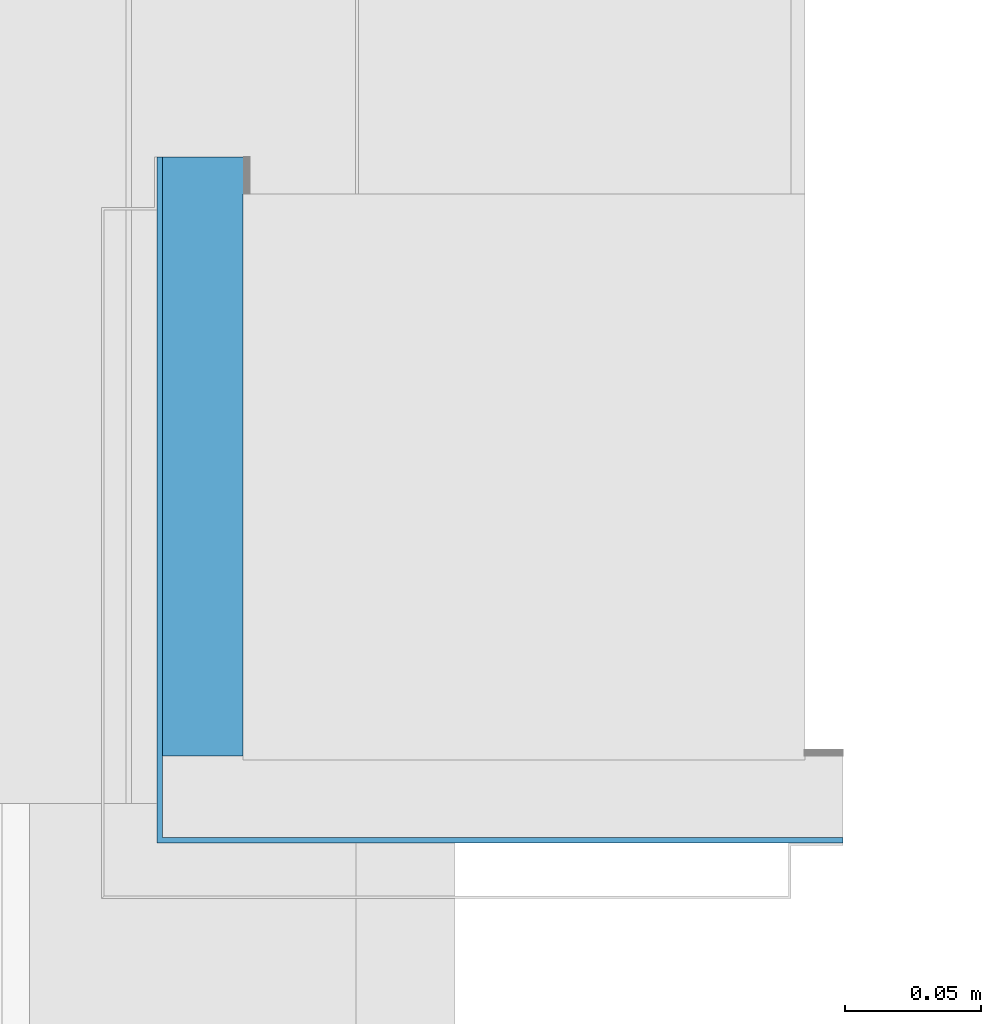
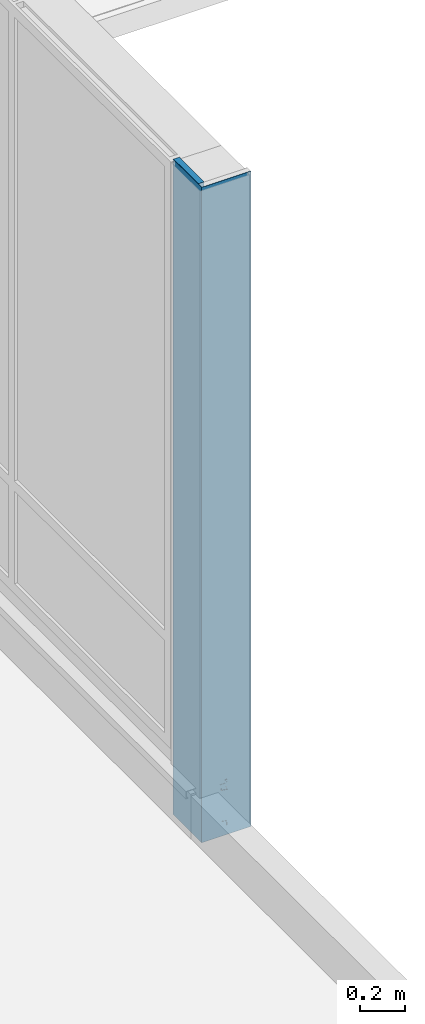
# One storey, part 19 of 54: 2 building element parts, 1 element without a shape of its own.
"""IFC2X3 building model written with IfcOpenShell, lengths in millimetres."""

from ifc_helpers import new_model, entity, si_unit, converted_unit, derived_unit, money_unit, direction, frame, origin_with_axes, place, context, subcontext, project, spatial, faceted_brep, material, type_object, element, aggregate, save


model = new_model("IFC2X3")

# Units and contexts
model_context = context("Model", 3, precision=0.01, world=origin_with_axes(), true_north=direction((0.0, 1.0)))
body_context = subcontext(model_context, "Body", "Model", "MODEL_VIEW")
ifc_project = project(units=[si_unit("LENGTHUNIT", "METRE", prefix="MILLI"), si_unit("AREAUNIT", "SQUARE_METRE"), si_unit("VOLUMEUNIT", "CUBIC_METRE"), converted_unit("PLANEANGLEUNIT", "DEGREE", entity("IfcPlaneAngleMeasure", 0.0174532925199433), si_unit("PLANEANGLEUNIT", "RADIAN"), dimensions=[0, 0, 0, 0, 0, 0, 0]), money_unit("EUR"), converted_unit("TIMEUNIT", "Year", entity("IfcTimeMeasure", 31557600.0), si_unit("TIMEUNIT", "SECOND"), dimensions=[0, 0, 1, 0, 0, 0, 0]), si_unit("MASSUNIT", "GRAM", prefix="KILO"), si_unit("THERMODYNAMICTEMPERATUREUNIT", "DEGREE_CELSIUS"), si_unit("LUMINOUSINTENSITYUNIT", "LUMEN"), si_unit("ENERGYUNIT", "JOULE", prefix="MEGA"), derived_unit("THERMALCONDUCTANCEUNIT", [(si_unit("POWERUNIT", "WATT"), 1), (si_unit("LENGTHUNIT", "METRE"), -1), (si_unit("THERMODYNAMICTEMPERATUREUNIT", "KELVIN"), -1)]), derived_unit("SPECIFICHEATCAPACITYUNIT", [(si_unit("ENERGYUNIT", "JOULE"), 1), (si_unit("MASSUNIT", "GRAM", prefix="KILO"), -1), (si_unit("THERMODYNAMICTEMPERATUREUNIT", "KELVIN"), -1)]), derived_unit("MASSDENSITYUNIT", [(si_unit("MASSUNIT", "GRAM", prefix="KILO"), 1), (si_unit("VOLUMEUNIT", "CUBIC_METRE"), -1)])], contexts=[model_context])

# Site, building, storey
site_placement = place(None, origin_with_axes())
site = spatial("IfcSite", under=ifc_project, at=site_placement, Name="<site naam>", CompositionType="ELEMENT")
building_placement = place(site_placement, origin_with_axes())
building = spatial("IfcBuilding", under=site, at=building_placement, Name="<Naam gebouw>", CompositionType="ELEMENT")
storey_placement = place(building_placement, frame((0.0, 0.0, 8500.0), z_axis=(0.0, 0.0, 1.0), x_axis=(1.0, 0.0, 0.0)))
storey = spatial("IfcBuildingStorey", under=building, at=storey_placement, Name="02 2e verdieping", CompositionType="ELEMENT", Elevation=8500.0)

# Column, building element parts
column_type = type_object("IfcColumnType", Name="aluminium zetwerk hoek vliesgevel 272 x 272", PredefinedType="COLUMN")
column_placement = place(storey_placement, frame((4071.524650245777, 1895.019464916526, 0.0), z_axis=(0.0, 0.0, 1.0), x_axis=(1.0, 0.0, 0.0)))
column = element("IfcColumn", 1, at=column_placement, inside=storey, type_object=column_type, Name="41_Kolom_aluminium", ObjectType="COLUMN")
ifc_material_1 = material(Name="ALG - ISOLATIE met lijn")
building_element_part_1_placement = place(column_placement, origin_with_axes())
building_element_part_1 = element("IfcBuildingElementPart", 2, at=building_element_part_1_placement, material=ifc_material_1, Name="ALG - ISOLATIE met lijn", context=body_context, shape_type="Brep", body=[
    faceted_brep([(52.50000268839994, 259.0029515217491, 269.9986434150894), (52.50000268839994, 272.4680601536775, 269.9986434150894), (52.50000268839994, 272.4680601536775, 3544.999975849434), (52.50000268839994, 259.0029515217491, 3544.999975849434), (22.49999655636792, 272.4680601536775, 269.9986434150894), (51.99999989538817, 259.0029515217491, 269.9986434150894), (51.99999989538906, 52.49999954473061, 269.9986434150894), (22.49999655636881, 52.49999954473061, 269.9986434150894), (22.49999655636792, 272.4680601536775, 3544.999975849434), (22.49999655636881, 52.49999954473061, 3544.999975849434), (51.99999989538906, 52.49999954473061, 3544.999975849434), (51.99999989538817, 259.0029515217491, 3544.999975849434)], [[[0, 1, 2, 3]], [[4, 1, 0, 5, 6, 7]], [[1, 4, 8, 2]], [[2, 8, 9, 10, 11, 3]], [[5, 0, 3, 11]], [[6, 5, 11, 10]], [[7, 6, 10, 9]], [[4, 7, 9, 8]]]),
])
ifc_material_2 = material(Name="Rubber")
building_element_part_2_placement = place(column_placement, origin_with_axes())
building_element_part_2 = element("IfcBuildingElementPart", 3, at=building_element_part_2_placement, material=ifc_material_2, Name="Rubber", context=body_context, shape_type="Brep", body=[
    faceted_brep([(20.49999289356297, 20.50000101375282, 3544.999975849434), (20.49999289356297, 20.50000101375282, 0.0), (252.4756312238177, 20.50000101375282, 0.0), (252.4756312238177, 20.50000101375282, 3544.999975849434), (119.7139282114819, 20.50000101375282, 95.56563988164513), (119.7139282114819, 20.50000101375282, 81.1728367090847), (151.5139216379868, 20.50000101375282, 75.56563988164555), (151.5139216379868, 20.50000101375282, 55.56562519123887), (150.3139282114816, 20.50000101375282, 55.56562519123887), (150.3139282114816, 20.50000101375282, 74.5587191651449), (118.5139282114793, 20.50000101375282, 80.16591715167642), (118.5139282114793, 20.50000101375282, 95.56563988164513), (121.7139282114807, 20.50000101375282, 259.0654609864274), (121.7139282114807, 20.50000101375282, 249.1686867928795), (153.5139282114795, 20.50000101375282, 245.065460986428), (153.5139282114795, 20.50000101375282, 50.56563146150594), (148.3139282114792, 20.50000101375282, 50.56563146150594), (148.3139282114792, 20.50000101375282, 67.56563146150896), (149.5139282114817, 20.50000101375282, 67.56563146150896), (149.5139282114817, 20.50000101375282, 51.76563146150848), (152.3219055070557, 20.50000101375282, 51.76563146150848), (152.3219055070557, 20.50000101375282, 243.767837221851), (120.5139282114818, 20.50000101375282, 247.8720932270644), (120.5139282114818, 20.50000101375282, 259.0654609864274), (152.5206209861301, 20.50000101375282, 300.0656399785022), (153.2277277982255, 20.50000101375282, 299.7727467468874), (153.5206210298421, 20.50000101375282, 299.0656399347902), (153.5206210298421, 20.50000101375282, 256.0656399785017), (153.2277278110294, 20.50000101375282, 255.3585331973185), (152.5206210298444, 20.50000101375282, 255.0656399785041), (152.0206424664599, 20.50000101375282, 255.1996022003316), (145.8220374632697, 20.50000101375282, 258.7781639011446), (145.5423376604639, 20.50000101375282, 259.1426290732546), (145.6022419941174, 20.50000101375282, 259.5981269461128), (145.9666656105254, 20.50000101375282, 259.8778808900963), (146.4221723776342, 20.50000101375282, 259.818044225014), (149.6221835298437, 20.50000101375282, 257.9718899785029), (149.6221835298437, 20.50000101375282, 258.5656399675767), (149.7686301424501, 20.50000101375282, 258.9191933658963), (150.1221835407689, 20.50000101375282, 259.0656399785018), (150.321402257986, 20.50000101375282, 259.0656399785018), (150.6749556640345, 20.50000101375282, 258.9191933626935), (150.8214022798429, 20.50000101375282, 258.5656399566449), (150.8214022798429, 20.50000101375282, 257.2785306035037), (151.5708990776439, 20.50000101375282, 256.8452277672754), (151.9081256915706, 20.50000101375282, 256.7855982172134), (152.2047513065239, 20.50000101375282, 256.9567435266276), (152.3219055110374, 20.50000101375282, 257.2785390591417), (152.3214022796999, 20.50000101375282, 287.0656484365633), (152.1749526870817, 20.50000101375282, 287.4191963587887), (151.8214022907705, 20.50000101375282, 287.5656399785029), (151.3214022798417, 20.50000101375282, 287.5656399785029), (150.9678488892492, 20.50000101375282, 287.4191933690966), (150.8214022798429, 20.50000101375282, 287.0656399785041), (150.8214022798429, 20.50000101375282, 285.5656399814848), (150.6749556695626, 20.50000101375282, 285.2120865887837), (150.3214022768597, 20.50000101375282, 285.0656399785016), (148.5479647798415, 20.50000101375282, 285.0656399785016), (143.342479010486, 20.50000101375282, 281.7461344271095), (143.2081210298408, 20.50000101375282, 281.4250149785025), (142.9503085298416, 20.50000101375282, 281.3156399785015), (142.6299960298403, 20.50000101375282, 281.4484524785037), (141.9796200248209, 20.50000101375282, 281.2060708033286), (141.8253085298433, 20.50000101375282, 280.8976712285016), (141.5557772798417, 20.50000101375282, 280.8078274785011), (141.2471835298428, 20.50000101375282, 280.9640774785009), (135.3216939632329, 20.50000101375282, 280.0660257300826), (108.8712120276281, 20.50000101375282, 280.0656399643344), (108.624687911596, 20.50000101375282, 280.1677501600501), (108.5225741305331, 20.50000101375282, 280.4142727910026), (108.6250313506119, 20.50000101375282, 280.6611393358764), (108.872183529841, 20.50000101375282, 280.7629056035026), (113.5206210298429, 20.50000101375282, 281.2648587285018), (113.8214022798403, 20.50000101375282, 281.5656399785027), (116.2198397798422, 20.50000101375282, 281.5656399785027), (116.5206210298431, 20.50000101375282, 281.2648587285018), (119.5206210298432, 20.50000101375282, 281.2648587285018), (119.8214022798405, 20.50000101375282, 281.5656399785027), (122.2198397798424, 20.50000101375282, 281.5656399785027), (122.5206210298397, 20.50000101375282, 281.2648587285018), (125.5206210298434, 20.50000101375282, 281.2648587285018), (125.8214022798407, 20.50000101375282, 281.5656399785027), (128.2198397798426, 20.50000101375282, 281.5656399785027), (128.5206210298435, 20.50000101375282, 281.2648587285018), (131.5206210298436, 20.50000101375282, 281.2648587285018), (131.821402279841, 20.50000101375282, 281.5656399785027), (134.2198397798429, 20.50000101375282, 281.5656399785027), (134.5206210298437, 20.50000101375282, 281.2648587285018), (135.3214048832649, 20.50000101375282, 281.2648587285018), (143.5039517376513, 20.50000101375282, 283.1388770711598), (150.0552626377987, 20.50000101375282, 288.3873381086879), (150.8356179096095, 20.50000101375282, 288.7641736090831), (151.3228126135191, 20.50000101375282, 288.7648607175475), (152.0290073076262, 20.50000101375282, 289.058251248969), (152.3214022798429, 20.50000101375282, 289.7648587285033), (152.3214022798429, 20.50000101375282, 298.3664212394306), (152.1749556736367, 20.50000101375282, 298.7199746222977), (151.8214022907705, 20.50000101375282, 298.866421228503), (142.7198397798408, 20.50000101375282, 298.866421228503), (142.3662863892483, 20.50000101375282, 298.7199746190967), (142.219839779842, 20.50000101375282, 298.3664212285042), (142.219839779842, 20.50000101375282, 296.665249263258), (142.0449623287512, 20.50000101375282, 296.2428147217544), (141.6226702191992, 20.50000101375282, 296.0675936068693), (141.2000935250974, 20.50000101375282, 296.2421272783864), (141.0245288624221, 20.50000101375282, 296.6642766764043), (141.020623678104, 20.50000101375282, 299.064012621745), (141.3129398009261, 20.50000101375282, 299.7721708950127), (142.0206210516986, 20.50000101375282, 300.0656399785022), (20.49999289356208, 253.0030740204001, 3544.999975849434), (20.49999289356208, 253.0030740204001, 0.0), (20.49999289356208, 272.4680595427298, 0.0), (22.49999536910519, 272.4680595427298, 0.0), (22.49999536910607, 22.49999942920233, 0.0), (272.468059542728, 22.49999942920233, 0.0), (272.468059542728, 20.50000101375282, 0.0), (272.468059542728, 20.50000101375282, 3544.999975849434), (272.468059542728, 22.49999942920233, 3544.999975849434), (22.49999536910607, 22.49999942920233, 3544.999975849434), (22.49999536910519, 272.4680595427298, 3544.999975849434), (20.49999289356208, 272.4680595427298, 3544.999975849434), (119.7139282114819, 22.49999942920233, 95.56563988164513), (119.7139282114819, 22.49999942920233, 81.1728367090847), (151.5139216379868, 22.49999942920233, 75.56563988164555), (151.5139216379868, 22.49999942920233, 55.56562519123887), (150.3139282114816, 22.49999942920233, 55.56562519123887), (150.3139282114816, 22.49999942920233, 74.5587191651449), (118.5139282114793, 22.49999942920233, 80.16591715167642), (118.5139282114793, 22.49999942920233, 95.56563988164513), (121.7139282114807, 22.49999942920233, 259.0654609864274), (121.7139282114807, 22.49999942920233, 249.1686867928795), (153.5139282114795, 22.49999942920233, 245.065460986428), (153.5139282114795, 22.49999942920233, 50.56563146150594), (148.3139282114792, 22.49999942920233, 50.56563146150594), (148.3139282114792, 22.49999942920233, 67.56563146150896), (149.5139282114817, 22.49999942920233, 67.56563146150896), (149.5139282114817, 22.49999942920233, 51.76563146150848), (152.3219055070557, 22.49999942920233, 51.76563146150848), (152.3219055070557, 22.49999942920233, 243.767837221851), (120.5139282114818, 22.49999942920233, 247.8720932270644), (120.5139282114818, 22.49999942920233, 259.0654609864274), (152.5206209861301, 22.49999942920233, 300.0656399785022), (153.2277277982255, 22.49999942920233, 299.7727467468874), (153.5206210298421, 22.49999942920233, 299.0656399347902), (153.5206210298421, 22.49999942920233, 256.0656399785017), (153.2277278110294, 22.49999942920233, 255.3585331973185), (152.5206210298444, 22.49999942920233, 255.0656399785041), (152.0206424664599, 22.49999942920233, 255.1996022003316), (145.8220374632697, 22.49999942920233, 258.7781639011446), (145.5423376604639, 22.49999942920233, 259.1426290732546), (145.6022419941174, 22.49999942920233, 259.5981269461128), (145.9666656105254, 22.49999942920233, 259.8778808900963), (146.4221723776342, 22.49999942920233, 259.818044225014), (149.6221835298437, 22.49999942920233, 257.9718899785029), (149.6221835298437, 22.49999942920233, 258.5656399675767), (149.7686301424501, 22.49999942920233, 258.9191933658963), (150.1221835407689, 22.49999942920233, 259.0656399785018), (150.321402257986, 22.49999942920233, 259.0656399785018), (150.6749556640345, 22.49999942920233, 258.9191933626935), (150.8214022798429, 22.49999942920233, 258.5656399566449), (150.8214022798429, 22.49999942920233, 257.2785306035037), (151.5708990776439, 22.49999942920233, 256.8452277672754), (151.9081256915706, 22.49999942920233, 256.7855982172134), (152.2047513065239, 22.49999942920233, 256.9567435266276), (152.3219055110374, 22.49999942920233, 257.2785390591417), (152.3214022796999, 22.49999942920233, 287.0656484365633), (152.1749526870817, 22.49999942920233, 287.4191963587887), (151.8214022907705, 22.49999942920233, 287.5656399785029), (151.3214022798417, 22.49999942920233, 287.5656399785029), (150.9678488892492, 22.49999942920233, 287.4191933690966), (150.8214022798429, 22.49999942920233, 287.0656399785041), (150.8214022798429, 22.49999942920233, 285.5656399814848), (150.6749556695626, 22.49999942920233, 285.2120865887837), (150.3214022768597, 22.49999942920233, 285.0656399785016), (148.5479647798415, 22.49999942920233, 285.0656399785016), (143.342479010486, 22.49999942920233, 281.7461344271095), (143.2081210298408, 22.49999942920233, 281.4250149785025), (142.9503085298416, 22.49999942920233, 281.3156399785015), (142.6299960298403, 22.49999942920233, 281.4484524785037), (141.9796200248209, 22.49999942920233, 281.2060708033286), (141.8253085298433, 22.49999942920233, 280.8976712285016), (141.5557772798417, 22.49999942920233, 280.8078274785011), (141.2471835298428, 22.49999942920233, 280.9640774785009), (135.3216939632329, 22.49999942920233, 280.0660257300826), (108.8712120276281, 22.49999942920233, 280.0656399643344), (108.624687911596, 22.49999942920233, 280.1677501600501), (108.5225741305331, 22.49999942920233, 280.4142727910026), (108.6250313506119, 22.49999942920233, 280.6611393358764), (108.872183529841, 22.49999942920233, 280.7629056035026), (113.5206210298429, 22.49999942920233, 281.2648587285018), (113.8214022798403, 22.49999942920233, 281.5656399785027), (116.2198397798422, 22.49999942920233, 281.5656399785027), (116.5206210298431, 22.49999942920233, 281.2648587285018), (119.5206210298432, 22.49999942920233, 281.2648587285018), (119.8214022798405, 22.49999942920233, 281.5656399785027), (122.2198397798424, 22.49999942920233, 281.5656399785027), (122.5206210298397, 22.49999942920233, 281.2648587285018), (125.5206210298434, 22.49999942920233, 281.2648587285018), (125.8214022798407, 22.49999942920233, 281.5656399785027), (128.2198397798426, 22.49999942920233, 281.5656399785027), (128.5206210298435, 22.49999942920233, 281.2648587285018), (131.5206210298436, 22.49999942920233, 281.2648587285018), (131.821402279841, 22.49999942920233, 281.5656399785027), (134.2198397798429, 22.49999942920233, 281.5656399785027), (134.5206210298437, 22.49999942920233, 281.2648587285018), (135.3214048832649, 22.49999942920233, 281.2648587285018), (143.5039517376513, 22.49999942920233, 283.1388770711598), (150.0552626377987, 22.49999942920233, 288.3873381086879), (150.8356179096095, 22.49999942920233, 288.7641736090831), (151.3228126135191, 22.49999942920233, 288.7648607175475), (152.0290073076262, 22.49999942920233, 289.058251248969), (152.3214022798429, 22.49999942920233, 289.7648587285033), (152.3214022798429, 22.49999942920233, 298.3664212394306), (152.1749556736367, 22.49999942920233, 298.7199746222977), (151.8214022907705, 22.49999942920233, 298.866421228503), (142.7198397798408, 22.49999942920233, 298.866421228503), (142.3662863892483, 22.49999942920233, 298.7199746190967), (142.219839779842, 22.49999942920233, 298.3664212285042), (142.219839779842, 22.49999942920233, 296.665249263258), (142.0449623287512, 22.49999942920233, 296.2428147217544), (141.6226702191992, 22.49999942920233, 296.0675936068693), (141.2000935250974, 22.49999942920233, 296.2421272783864), (141.0245288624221, 22.49999942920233, 296.6642766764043), (141.020623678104, 22.49999942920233, 299.064012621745), (141.3129398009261, 22.49999942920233, 299.7721708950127), (142.0206210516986, 22.49999942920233, 300.0656399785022)], [[[0, 1, 2, 3], [4, 5, 6, 7, 8, 9, 10, 11], [12, 13, 14, 15, 16, 17, 18, 19, 20, 21, 22, 23], [24, 25, 26, 27, 28, 29, 30, 31, 32, 33, 34, 35, 36, 37, 38, 39, 40, 41, 42, 43, 44, 45, 46, 47, 48, 49, 50, 51, 52, 53, 54, 55, 56, 57, 58, 59, 60, 61, 62, 63, 64, 65, 66, 67, 68, 69, 70, 71, 72, 73, 74, 75, 76, 77, 78, 79, 80, 81, 82, 83, 84, 85, 86, 87, 88, 89, 90, 91, 92, 93, 94, 95, 96, 97, 98, 99, 100, 101, 102, 103, 104, 105, 106, 107, 108]], [[109, 110, 1, 0]], [[2, 1, 110, 111, 112, 113, 114, 115]], [[3, 2, 115, 116]], [[109, 0, 3, 116, 117, 118, 119, 120]], [[121, 122, 5, 4]], [[122, 123, 6, 5]], [[123, 124, 7, 6]], [[124, 125, 8, 7]], [[125, 126, 9, 8]], [[126, 127, 10, 9]], [[127, 128, 11, 10]], [[128, 121, 4, 11]], [[129, 130, 13, 12]], [[130, 131, 14, 13]], [[131, 132, 15, 14]], [[132, 133, 16, 15]], [[133, 134, 17, 16]], [[134, 135, 18, 17]], [[135, 136, 19, 18]], [[136, 137, 20, 19]], [[137, 138, 21, 20]], [[138, 139, 22, 21]], [[139, 140, 23, 22]], [[140, 129, 12, 23]], [[141, 142, 25, 24]], [[142, 143, 26, 25]], [[143, 144, 27, 26]], [[144, 145, 28, 27]], [[145, 146, 29, 28]], [[146, 147, 30, 29]], [[147, 148, 31, 30]], [[148, 149, 32, 31]], [[149, 150, 33, 32]], [[150, 151, 34, 33]], [[151, 152, 35, 34]], [[152, 153, 36, 35]], [[153, 154, 37, 36]], [[154, 155, 38, 37]], [[155, 156, 39, 38]], [[156, 157, 40, 39]], [[157, 158, 41, 40]], [[158, 159, 42, 41]], [[159, 160, 43, 42]], [[160, 161, 44, 43]], [[161, 162, 45, 44]], [[162, 163, 46, 45]], [[163, 164, 47, 46]], [[164, 165, 48, 47]], [[165, 166, 49, 48]], [[166, 167, 50, 49]], [[167, 168, 51, 50]], [[168, 169, 52, 51]], [[169, 170, 53, 52]], [[170, 171, 54, 53]], [[171, 172, 55, 54]], [[172, 173, 56, 55]], [[173, 174, 57, 56]], [[174, 175, 58, 57]], [[175, 176, 59, 58]], [[176, 177, 60, 59]], [[177, 178, 61, 60]], [[178, 179, 62, 61]], [[179, 180, 63, 62]], [[180, 181, 64, 63]], [[181, 182, 65, 64]], [[182, 183, 66, 65]], [[183, 184, 67, 66]], [[184, 185, 68, 67]], [[185, 186, 69, 68]], [[186, 187, 70, 69]], [[187, 188, 71, 70]], [[188, 189, 72, 71]], [[189, 190, 73, 72]], [[190, 191, 74, 73]], [[191, 192, 75, 74]], [[192, 193, 76, 75]], [[193, 194, 77, 76]], [[194, 195, 78, 77]], [[195, 196, 79, 78]], [[196, 197, 80, 79]], [[197, 198, 81, 80]], [[198, 199, 82, 81]], [[199, 200, 83, 82]], [[200, 201, 84, 83]], [[201, 202, 85, 84]], [[202, 203, 86, 85]], [[203, 204, 87, 86]], [[204, 205, 88, 87]], [[205, 206, 89, 88]], [[206, 207, 90, 89]], [[207, 208, 91, 90]], [[208, 209, 92, 91]], [[209, 210, 93, 92]], [[210, 211, 94, 93]], [[211, 212, 95, 94]], [[212, 213, 96, 95]], [[213, 214, 97, 96]], [[214, 215, 98, 97]], [[215, 216, 99, 98]], [[216, 217, 100, 99]], [[217, 218, 101, 100]], [[218, 219, 102, 101]], [[219, 220, 103, 102]], [[220, 221, 104, 103]], [[221, 222, 105, 104]], [[222, 223, 106, 105]], [[223, 224, 107, 106]], [[224, 225, 108, 107]], [[225, 141, 24, 108]], [[120, 111, 110, 109]], [[119, 112, 111, 120]], [[118, 113, 112, 119]], [[117, 114, 113, 118], [125, 124, 123, 122, 121, 128, 127, 126], [133, 132, 131, 130, 129, 140, 139, 138, 137, 136, 135, 134], [145, 144, 143, 142, 141, 225, 224, 223, 222, 221, 220, 219, 218, 217, 216, 215, 214, 213, 212, 211, 210, 209, 208, 207, 206, 205, 204, 203, 202, 201, 200, 199, 198, 197, 196, 195, 194, 193, 192, 191, 190, 189, 188, 187, 186, 185, 184, 183, 182, 181, 180, 179, 178, 177, 176, 175, 174, 173, 172, 171, 170, 169, 168, 167, 166, 165, 164, 163, 162, 161, 160, 159, 158, 157, 156, 155, 154, 153, 152, 151, 150, 149, 148, 147, 146]], [[116, 115, 114, 117]]]),
])
aggregate(column, [building_element_part_1, building_element_part_2])

save(model, "model.ifc")
